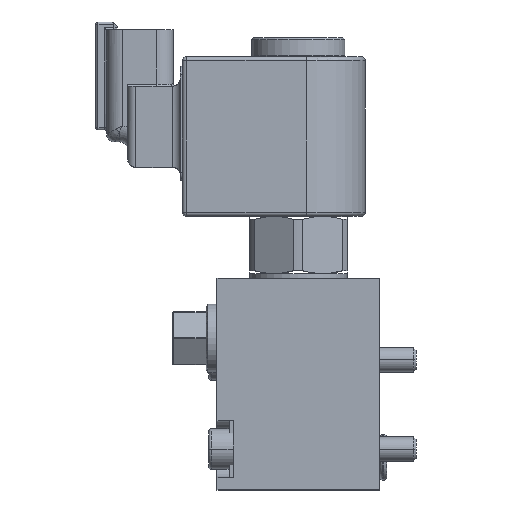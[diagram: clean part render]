
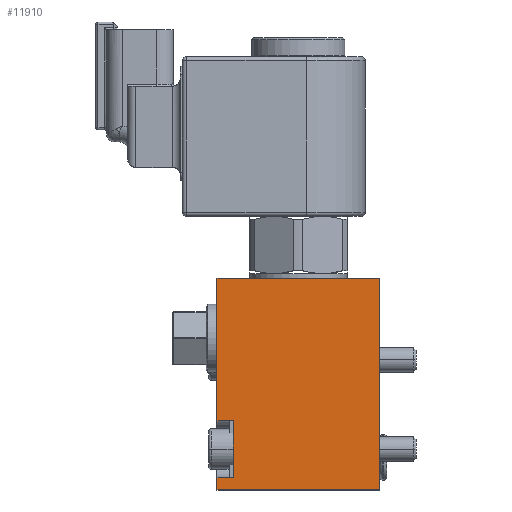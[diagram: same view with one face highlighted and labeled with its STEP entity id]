
A CAD part, top view. The second image highlights one B-rep face of the part: STEP entity #11910.
In plain terms, the highlighted planar face has unit normal (0, 0, 1).
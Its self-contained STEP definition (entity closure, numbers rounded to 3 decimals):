
#535 = FACE_OUTER_BOUND ( 'NONE', #7589, .T. ) ;
#757 = DIRECTION ( 'NONE',  ( 1., 0., 0. ) ) ;
#831 = DIRECTION ( 'NONE',  ( 1., 0., 0. ) ) ;
#897 = CARTESIAN_POINT ( 'NONE',  ( 0., -52., 44. ) ) ;
#1218 = CARTESIAN_POINT ( 'NONE',  ( 19.232, -35., 44. ) ) ;
#1404 = ORIENTED_EDGE ( 'NONE', *, *, #14980, .T. ) ;
#1505 = LINE ( 'NONE', #1218, #2037 ) ;
#1766 = CARTESIAN_POINT ( 'NONE',  ( 0., 0., 44. ) ) ;
#1791 = EDGE_CURVE ( 'NONE', #9104, #11977, #18459, .T. ) ;
#2037 = VECTOR ( 'NONE', #17441, 1000. ) ;
#2901 = LINE ( 'NONE', #20375, #21465 ) ;
#3367 = VECTOR ( 'NONE', #5816, 1000. ) ;
#3470 = VERTEX_POINT ( 'NONE', #22757 ) ;
#3591 = CARTESIAN_POINT ( 'NONE',  ( 0., 0., 44. ) ) ;
#3961 = ORIENTED_EDGE ( 'NONE', *, *, #19251, .T. ) ;
#4342 = ORIENTED_EDGE ( 'NONE', *, *, #18393, .F. ) ;
#5211 = ORIENTED_EDGE ( 'NONE', *, *, #7592, .T. ) ;
#5238 = EDGE_CURVE ( 'NONE', #6222, #9104, #10710, .T. ) ;
#5531 = LINE ( 'NONE', #3591, #3367 ) ;
#5623 = CARTESIAN_POINT ( 'NONE',  ( 19.232, -49., 44. ) ) ;
#5816 = DIRECTION ( 'NONE',  ( -1., 0., 0. ) ) ;
#6222 = VERTEX_POINT ( 'NONE', #9340 ) ;
#7007 = CARTESIAN_POINT ( 'NONE',  ( 4., -49., 44. ) ) ;
#7589 = EDGE_LOOP ( 'NONE', ( #22662, #27122, #18763, #23198, #3961, #5211, #1404, #4342 ) ) ;
#7592 = EDGE_CURVE ( 'NONE', #3470, #15964, #5531, .T. ) ;
#7649 = CARTESIAN_POINT ( 'NONE',  ( 40., -52., 44. ) ) ;
#8959 = LINE ( 'NONE', #21935, #22041 ) ;
#9104 = VERTEX_POINT ( 'NONE', #22556 ) ;
#9340 = CARTESIAN_POINT ( 'NONE',  ( 0., -49., 44. ) ) ;
#10710 = LINE ( 'NONE', #16863, #27493 ) ;
#11265 = DIRECTION ( 'NONE',  ( 0., -1., 0. ) ) ;
#11910 = ADVANCED_FACE ( 'NONE', ( #535 ), #22575, .T. ) ;
#11977 = VERTEX_POINT ( 'NONE', #7649 ) ;
#12746 = VERTEX_POINT ( 'NONE', #7007 ) ;
#14151 = DIRECTION ( 'NONE',  ( -1., 0., 0. ) ) ;
#14701 = CARTESIAN_POINT ( 'NONE',  ( 4., -35., 44. ) ) ;
#14980 = EDGE_CURVE ( 'NONE', #15964, #18232, #2901, .T. ) ;
#15053 = DIRECTION ( 'NONE',  ( 0., 1., 0. ) ) ;
#15964 = VERTEX_POINT ( 'NONE', #1766 ) ;
#16759 = EDGE_CURVE ( 'NONE', #12746, #6222, #25687, .T. ) ;
#16863 = CARTESIAN_POINT ( 'NONE',  ( 0., 0., 44. ) ) ;
#17048 = CARTESIAN_POINT ( 'NONE',  ( 0., 0., 44. ) ) ;
#17441 = DIRECTION ( 'NONE',  ( -1., 0., 0. ) ) ;
#17643 = VERTEX_POINT ( 'NONE', #14701 ) ;
#18232 = VERTEX_POINT ( 'NONE', #20246 ) ;
#18393 = EDGE_CURVE ( 'NONE', #17643, #18232, #1505, .T. ) ;
#18459 = LINE ( 'NONE', #897, #28558 ) ;
#18744 = VECTOR ( 'NONE', #14151, 1000. ) ;
#18763 = ORIENTED_EDGE ( 'NONE', *, *, #5238, .T. ) ;
#19251 = EDGE_CURVE ( 'NONE', #11977, #3470, #21266, .T. ) ;
#20007 = DIRECTION ( 'NONE',  ( 0., 1., 0. ) ) ;
#20154 = AXIS2_PLACEMENT_3D ( 'NONE', #17048, #23439, #831 ) ;
#20246 = CARTESIAN_POINT ( 'NONE',  ( 0., -35., 44. ) ) ;
#20375 = CARTESIAN_POINT ( 'NONE',  ( 0., 0., 44. ) ) ;
#20908 = EDGE_CURVE ( 'NONE', #12746, #17643, #8959, .T. ) ;
#20960 = VECTOR ( 'NONE', #15053, 1000. ) ;
#21266 = LINE ( 'NONE', #23786, #20960 ) ;
#21465 = VECTOR ( 'NONE', #11265, 1000. ) ;
#21935 = CARTESIAN_POINT ( 'NONE',  ( 4., 0., 44. ) ) ;
#22041 = VECTOR ( 'NONE', #20007, 1000. ) ;
#22556 = CARTESIAN_POINT ( 'NONE',  ( 0., -52., 44. ) ) ;
#22575 = PLANE ( 'NONE',  #20154 ) ;
#22662 = ORIENTED_EDGE ( 'NONE', *, *, #20908, .F. ) ;
#22757 = CARTESIAN_POINT ( 'NONE',  ( 40., 0., 44. ) ) ;
#23198 = ORIENTED_EDGE ( 'NONE', *, *, #1791, .T. ) ;
#23439 = DIRECTION ( 'NONE',  ( 0., 0., 1. ) ) ;
#23786 = CARTESIAN_POINT ( 'NONE',  ( 40., 0., 44. ) ) ;
#25687 = LINE ( 'NONE', #5623, #18744 ) ;
#26364 = DIRECTION ( 'NONE',  ( 0., -1., 0. ) ) ;
#27122 = ORIENTED_EDGE ( 'NONE', *, *, #16759, .T. ) ;
#27493 = VECTOR ( 'NONE', #26364, 1000. ) ;
#28558 = VECTOR ( 'NONE', #757, 1000. ) ;
